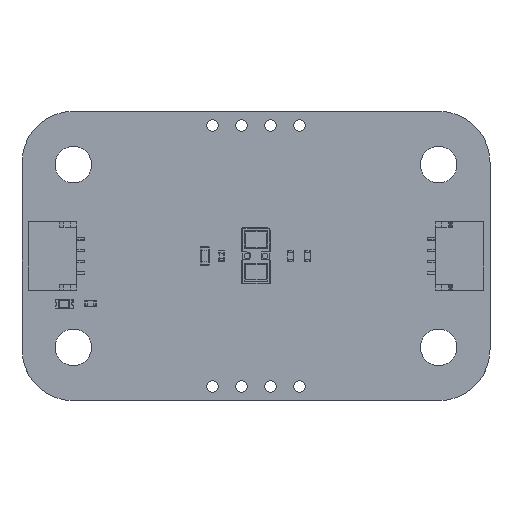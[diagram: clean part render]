
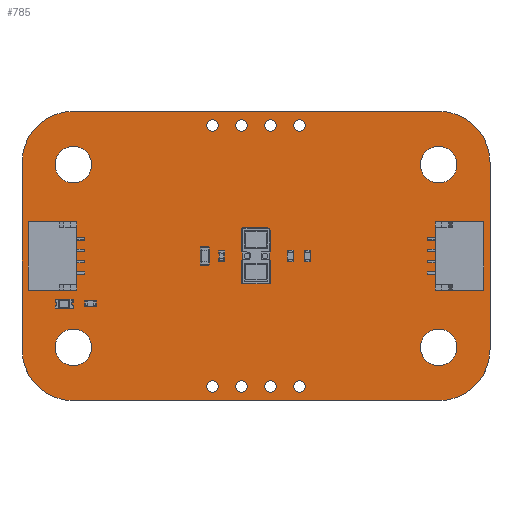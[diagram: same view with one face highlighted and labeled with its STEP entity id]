
A CAD part, top view. The second image highlights one B-rep face of the part: STEP entity #785.
In plain terms, the highlighted planar face has unit normal (0, 0, 1).
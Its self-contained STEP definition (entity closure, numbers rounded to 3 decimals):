
#88 = VERTEX_POINT('',#89);
#89 = CARTESIAN_POINT('',(0.,4.5,1.606));
#95 = EDGE_CURVE('',#88,#96,#98,.T.);
#96 = VERTEX_POINT('',#97);
#97 = CARTESIAN_POINT('',(4.5,0.,1.606));
#98 = CIRCLE('',#99,4.5);
#99 = AXIS2_PLACEMENT_3D('',#100,#101,#102);
#100 = CARTESIAN_POINT('',(4.5,4.5,1.606));
#101 = DIRECTION('',(0.,0.,1.));
#102 = DIRECTION('',(-1.,0.,0.));
#128 = EDGE_CURVE('',#96,#129,#131,.T.);
#129 = VERTEX_POINT('',#130);
#130 = CARTESIAN_POINT('',(36.5,0.,1.606));
#131 = LINE('',#132,#133);
#132 = CARTESIAN_POINT('',(4.5,0.,1.606));
#133 = VECTOR('',#134,1.);
#134 = DIRECTION('',(1.,0.,0.));
#159 = EDGE_CURVE('',#129,#160,#162,.T.);
#160 = VERTEX_POINT('',#161);
#161 = CARTESIAN_POINT('',(41.,4.5,1.606));
#162 = CIRCLE('',#163,4.5);
#163 = AXIS2_PLACEMENT_3D('',#164,#165,#166);
#164 = CARTESIAN_POINT('',(36.5,4.5,1.606));
#165 = DIRECTION('',(0.,0.,1.));
#166 = DIRECTION('',(0.,-1.,0.));
#192 = EDGE_CURVE('',#160,#193,#195,.T.);
#193 = VERTEX_POINT('',#194);
#194 = CARTESIAN_POINT('',(41.,20.86,1.606));
#195 = LINE('',#196,#197);
#196 = CARTESIAN_POINT('',(41.,4.5,1.606));
#197 = VECTOR('',#198,1.);
#198 = DIRECTION('',(0.,1.,0.));
#223 = EDGE_CURVE('',#193,#224,#226,.T.);
#224 = VERTEX_POINT('',#225);
#225 = CARTESIAN_POINT('',(36.5,25.36,1.606));
#226 = CIRCLE('',#227,4.5);
#227 = AXIS2_PLACEMENT_3D('',#228,#229,#230);
#228 = CARTESIAN_POINT('',(36.5,20.86,1.606));
#229 = DIRECTION('',(0.,0.,1.));
#230 = DIRECTION('',(1.,0.,0.));
#256 = EDGE_CURVE('',#224,#257,#259,.T.);
#257 = VERTEX_POINT('',#258);
#258 = CARTESIAN_POINT('',(4.5,25.36,1.606));
#259 = LINE('',#260,#261);
#260 = CARTESIAN_POINT('',(36.5,25.36,1.606));
#261 = VECTOR('',#262,1.);
#262 = DIRECTION('',(-1.,0.,0.));
#287 = EDGE_CURVE('',#257,#288,#290,.T.);
#288 = VERTEX_POINT('',#289);
#289 = CARTESIAN_POINT('',(0.,20.86,1.606));
#290 = CIRCLE('',#291,4.5);
#291 = AXIS2_PLACEMENT_3D('',#292,#293,#294);
#292 = CARTESIAN_POINT('',(4.5,20.86,1.606));
#293 = DIRECTION('',(0.,0.,1.));
#294 = DIRECTION('',(0.,1.,-0.));
#320 = EDGE_CURVE('',#288,#88,#321,.T.);
#321 = LINE('',#322,#323);
#322 = CARTESIAN_POINT('',(0.,20.86,1.606));
#323 = VECTOR('',#324,1.);
#324 = DIRECTION('',(0.,-1.,0.));
#344 = VERTEX_POINT('',#345);
#345 = CARTESIAN_POINT('',(6.1,4.68,1.606));
#351 = EDGE_CURVE('',#344,#344,#352,.T.);
#352 = CIRCLE('',#353,1.6);
#353 = AXIS2_PLACEMENT_3D('',#354,#355,#356);
#354 = CARTESIAN_POINT('',(4.5,4.68,1.606));
#355 = DIRECTION('',(0.,0.,1.));
#356 = DIRECTION('',(1.,0.,-0.));
#377 = VERTEX_POINT('',#378);
#378 = CARTESIAN_POINT('',(19.73,1.25,1.606));
#384 = EDGE_CURVE('',#377,#377,#385,.T.);
#385 = CIRCLE('',#386,0.5);
#386 = AXIS2_PLACEMENT_3D('',#387,#388,#389);
#387 = CARTESIAN_POINT('',(19.23,1.25,1.606));
#388 = DIRECTION('',(0.,0.,1.));
#389 = DIRECTION('',(1.,0.,-0.));
#410 = VERTEX_POINT('',#411);
#411 = CARTESIAN_POINT('',(17.19,1.25,1.606));
#417 = EDGE_CURVE('',#410,#410,#418,.T.);
#418 = CIRCLE('',#419,0.5);
#419 = AXIS2_PLACEMENT_3D('',#420,#421,#422);
#420 = CARTESIAN_POINT('',(16.69,1.25,1.606));
#421 = DIRECTION('',(0.,0.,1.));
#422 = DIRECTION('',(1.,0.,-0.));
#443 = VERTEX_POINT('',#444);
#444 = CARTESIAN_POINT('',(6.1,20.68,1.606));
#450 = EDGE_CURVE('',#443,#443,#451,.T.);
#451 = CIRCLE('',#452,1.6);
#452 = AXIS2_PLACEMENT_3D('',#453,#454,#455);
#453 = CARTESIAN_POINT('',(4.5,20.68,1.606));
#454 = DIRECTION('',(0.,0.,1.));
#455 = DIRECTION('',(1.,0.,-0.));
#476 = VERTEX_POINT('',#477);
#477 = CARTESIAN_POINT('',(19.73,24.11,1.606));
#483 = EDGE_CURVE('',#476,#476,#484,.T.);
#484 = CIRCLE('',#485,0.5);
#485 = AXIS2_PLACEMENT_3D('',#486,#487,#488);
#486 = CARTESIAN_POINT('',(19.23,24.11,1.606));
#487 = DIRECTION('',(0.,0.,1.));
#488 = DIRECTION('',(1.,0.,-0.));
#509 = VERTEX_POINT('',#510);
#510 = CARTESIAN_POINT('',(17.19,24.11,1.606));
#516 = EDGE_CURVE('',#509,#509,#517,.T.);
#517 = CIRCLE('',#518,0.5);
#518 = AXIS2_PLACEMENT_3D('',#519,#520,#521);
#519 = CARTESIAN_POINT('',(16.69,24.11,1.606));
#520 = DIRECTION('',(0.,0.,1.));
#521 = DIRECTION('',(1.,0.,-0.));
#542 = VERTEX_POINT('',#543);
#543 = CARTESIAN_POINT('',(22.27,1.25,1.606));
#549 = EDGE_CURVE('',#542,#542,#550,.T.);
#550 = CIRCLE('',#551,0.5);
#551 = AXIS2_PLACEMENT_3D('',#552,#553,#554);
#552 = CARTESIAN_POINT('',(21.77,1.25,1.606));
#553 = DIRECTION('',(0.,0.,1.));
#554 = DIRECTION('',(1.,0.,-0.));
#575 = VERTEX_POINT('',#576);
#576 = CARTESIAN_POINT('',(24.81,1.25,1.606));
#582 = EDGE_CURVE('',#575,#575,#583,.T.);
#583 = CIRCLE('',#584,0.5);
#584 = AXIS2_PLACEMENT_3D('',#585,#586,#587);
#585 = CARTESIAN_POINT('',(24.31,1.25,1.606));
#586 = DIRECTION('',(0.,0.,1.));
#587 = DIRECTION('',(1.,0.,-0.));
#608 = VERTEX_POINT('',#609);
#609 = CARTESIAN_POINT('',(38.1,4.68,1.606));
#615 = EDGE_CURVE('',#608,#608,#616,.T.);
#616 = CIRCLE('',#617,1.6);
#617 = AXIS2_PLACEMENT_3D('',#618,#619,#620);
#618 = CARTESIAN_POINT('',(36.5,4.68,1.606));
#619 = DIRECTION('',(0.,0.,1.));
#620 = DIRECTION('',(1.,0.,-0.));
#641 = VERTEX_POINT('',#642);
#642 = CARTESIAN_POINT('',(22.27,24.11,1.606));
#648 = EDGE_CURVE('',#641,#641,#649,.T.);
#649 = CIRCLE('',#650,0.5);
#650 = AXIS2_PLACEMENT_3D('',#651,#652,#653);
#651 = CARTESIAN_POINT('',(21.77,24.11,1.606));
#652 = DIRECTION('',(0.,0.,1.));
#653 = DIRECTION('',(1.,0.,-0.));
#674 = VERTEX_POINT('',#675);
#675 = CARTESIAN_POINT('',(38.1,20.68,1.606));
#681 = EDGE_CURVE('',#674,#674,#682,.T.);
#682 = CIRCLE('',#683,1.6);
#683 = AXIS2_PLACEMENT_3D('',#684,#685,#686);
#684 = CARTESIAN_POINT('',(36.5,20.68,1.606));
#685 = DIRECTION('',(0.,0.,1.));
#686 = DIRECTION('',(1.,0.,-0.));
#707 = VERTEX_POINT('',#708);
#708 = CARTESIAN_POINT('',(24.81,24.11,1.606));
#714 = EDGE_CURVE('',#707,#707,#715,.T.);
#715 = CIRCLE('',#716,0.5);
#716 = AXIS2_PLACEMENT_3D('',#717,#718,#719);
#717 = CARTESIAN_POINT('',(24.31,24.11,1.606));
#718 = DIRECTION('',(0.,0.,1.));
#719 = DIRECTION('',(1.,0.,-0.));
#785 = ADVANCED_FACE('',(#786,#796,#799,#802,#805,#808,#811,#814,#817,
    #820,#823,#826,#829),#832,.T.);
#786 = FACE_BOUND('',#787,.T.);
#787 = EDGE_LOOP('',(#788,#789,#790,#791,#792,#793,#794,#795));
#788 = ORIENTED_EDGE('',*,*,#95,.T.);
#789 = ORIENTED_EDGE('',*,*,#128,.T.);
#790 = ORIENTED_EDGE('',*,*,#159,.T.);
#791 = ORIENTED_EDGE('',*,*,#192,.T.);
#792 = ORIENTED_EDGE('',*,*,#223,.T.);
#793 = ORIENTED_EDGE('',*,*,#256,.T.);
#794 = ORIENTED_EDGE('',*,*,#287,.T.);
#795 = ORIENTED_EDGE('',*,*,#320,.T.);
#796 = FACE_BOUND('',#797,.T.);
#797 = EDGE_LOOP('',(#798));
#798 = ORIENTED_EDGE('',*,*,#351,.F.);
#799 = FACE_BOUND('',#800,.T.);
#800 = EDGE_LOOP('',(#801));
#801 = ORIENTED_EDGE('',*,*,#384,.F.);
#802 = FACE_BOUND('',#803,.T.);
#803 = EDGE_LOOP('',(#804));
#804 = ORIENTED_EDGE('',*,*,#417,.F.);
#805 = FACE_BOUND('',#806,.T.);
#806 = EDGE_LOOP('',(#807));
#807 = ORIENTED_EDGE('',*,*,#450,.F.);
#808 = FACE_BOUND('',#809,.T.);
#809 = EDGE_LOOP('',(#810));
#810 = ORIENTED_EDGE('',*,*,#483,.F.);
#811 = FACE_BOUND('',#812,.T.);
#812 = EDGE_LOOP('',(#813));
#813 = ORIENTED_EDGE('',*,*,#516,.F.);
#814 = FACE_BOUND('',#815,.T.);
#815 = EDGE_LOOP('',(#816));
#816 = ORIENTED_EDGE('',*,*,#549,.F.);
#817 = FACE_BOUND('',#818,.T.);
#818 = EDGE_LOOP('',(#819));
#819 = ORIENTED_EDGE('',*,*,#582,.F.);
#820 = FACE_BOUND('',#821,.T.);
#821 = EDGE_LOOP('',(#822));
#822 = ORIENTED_EDGE('',*,*,#615,.F.);
#823 = FACE_BOUND('',#824,.T.);
#824 = EDGE_LOOP('',(#825));
#825 = ORIENTED_EDGE('',*,*,#648,.F.);
#826 = FACE_BOUND('',#827,.T.);
#827 = EDGE_LOOP('',(#828));
#828 = ORIENTED_EDGE('',*,*,#681,.F.);
#829 = FACE_BOUND('',#830,.T.);
#830 = EDGE_LOOP('',(#831));
#831 = ORIENTED_EDGE('',*,*,#714,.F.);
#832 = PLANE('',#833);
#833 = AXIS2_PLACEMENT_3D('',#834,#835,#836);
#834 = CARTESIAN_POINT('',(20.5,12.68,1.606));
#835 = DIRECTION('',(0.,0.,1.));
#836 = DIRECTION('',(1.,0.,-0.));
